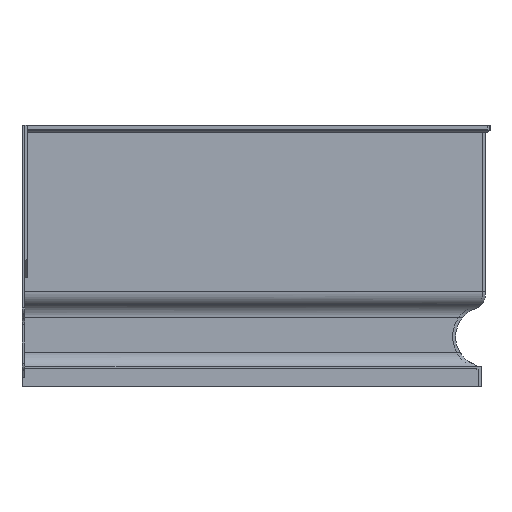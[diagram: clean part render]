
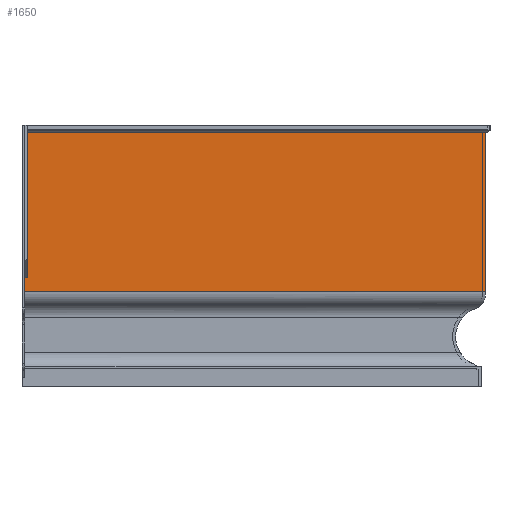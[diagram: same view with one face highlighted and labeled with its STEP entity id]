
A CAD part, left-side view. The second image highlights one B-rep face of the part: STEP entity #1650.
In plain terms, the highlighted planar face has unit normal (-1, 0, 0).
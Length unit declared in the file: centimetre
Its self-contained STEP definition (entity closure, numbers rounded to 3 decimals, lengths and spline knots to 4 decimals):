
#118=FACE_OUTER_BOUND('',#210,.T.);
#210=EDGE_LOOP('',(#1331,#1332,#1333,#1334,#1335,#1336));
#359=LINE('',#2628,#539);
#365=LINE('',#2639,#545);
#383=LINE('',#2690,#563);
#385=LINE('',#2694,#565);
#386=LINE('',#2696,#566);
#387=LINE('',#2697,#567);
#539=VECTOR('',#2037,0.4);
#545=VECTOR('',#2047,19.4364);
#563=VECTOR('',#2089,61.2);
#565=VECTOR('',#2093,1.8636);
#566=VECTOR('',#2094,61.6);
#567=VECTOR('',#2095,21.3);
#754=VERTEX_POINT('',#2624);
#756=VERTEX_POINT('',#2627);
#759=VERTEX_POINT('',#2638);
#780=VERTEX_POINT('',#2689);
#781=VERTEX_POINT('',#2693);
#782=VERTEX_POINT('',#2695);
#952=EDGE_CURVE('',#756,#754,#359,.T.);
#958=EDGE_CURVE('',#759,#756,#365,.T.);
#984=EDGE_CURVE('',#780,#759,#383,.T.);
#986=EDGE_CURVE('',#781,#754,#385,.T.);
#987=EDGE_CURVE('',#782,#781,#386,.T.);
#988=EDGE_CURVE('',#782,#780,#387,.T.);
#1331=ORIENTED_EDGE('',*,*,#958,.T.);
#1332=ORIENTED_EDGE('',*,*,#952,.T.);
#1333=ORIENTED_EDGE('',*,*,#986,.F.);
#1334=ORIENTED_EDGE('',*,*,#987,.F.);
#1335=ORIENTED_EDGE('',*,*,#988,.T.);
#1336=ORIENTED_EDGE('',*,*,#984,.T.);
#1583=PLANE('',#1765);
#1650=ADVANCED_FACE('',(#118),#1583,.F.);
#1765=AXIS2_PLACEMENT_3D('',#2692,#2091,#2092);
#2037=DIRECTION('',(0.,1.,0.));
#2047=DIRECTION('',(0.,0.,-1.));
#2089=DIRECTION('',(0.,1.,0.));
#2091=DIRECTION('center_axis',(1.,0.,0.));
#2092=DIRECTION('ref_axis',(0.,0.,-1.));
#2093=DIRECTION('',(0.,0.,1.));
#2094=DIRECTION('',(0.,1.,0.));
#2095=DIRECTION('',(0.,0.,1.));
#2624=CARTESIAN_POINT('',(-53.5,-0.4,14.5636));
#2627=CARTESIAN_POINT('',(-53.5,-0.8,14.5636));
#2628=CARTESIAN_POINT('',(-53.5,-15.6205,14.5636));
#2638=CARTESIAN_POINT('',(-53.5,-0.8,34.));
#2639=CARTESIAN_POINT('',(-53.5,-0.8,21.8127));
#2689=CARTESIAN_POINT('',(-53.5,-62.,34.));
#2690=CARTESIAN_POINT('',(-53.5,0.,34.));
#2692=CARTESIAN_POINT('Origin',(-53.5,-30.841,18.3978));
#2693=CARTESIAN_POINT('',(-53.5,-0.4,12.7));
#2694=CARTESIAN_POINT('',(-53.5,-0.4,18.1069));
#2695=CARTESIAN_POINT('',(-53.5,-62.,12.7));
#2696=CARTESIAN_POINT('',(-53.5,-46.4205,12.7));
#2697=CARTESIAN_POINT('',(-53.5,-62.,34.));
